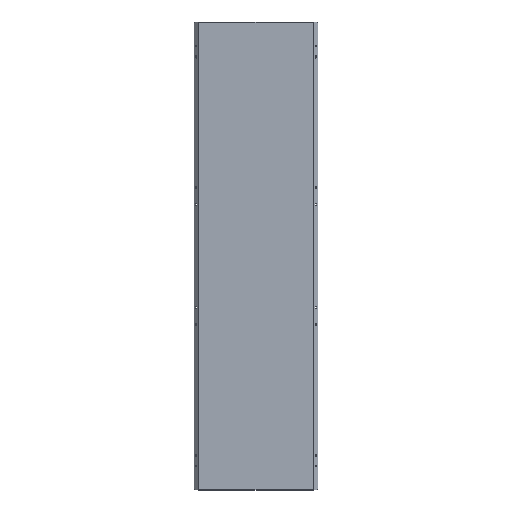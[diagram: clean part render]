
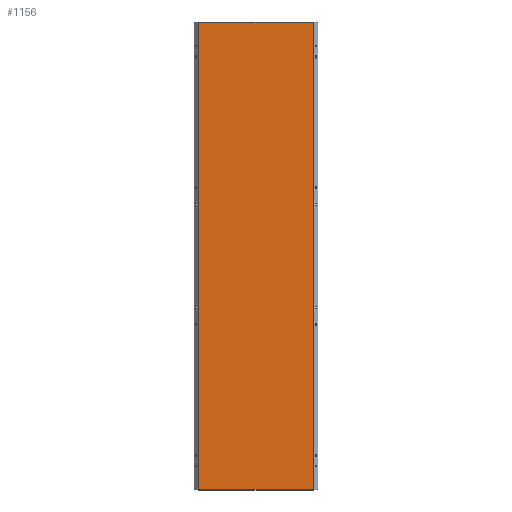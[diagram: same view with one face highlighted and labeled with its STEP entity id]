
A CAD part, top view. The second image highlights one B-rep face of the part: STEP entity #1156.
In plain terms, the highlighted planar face has unit normal (0, 0, 1).
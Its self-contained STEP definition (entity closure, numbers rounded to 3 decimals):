
#50 = ORIENTED_EDGE ( 'NONE', *, *, #115, .T. ) ;
#115 = EDGE_CURVE ( 'NONE', #6678, #2750, #4597, .T. ) ;
#333 = PLANE ( 'NONE',  #968 ) ;
#359 = LINE ( 'NONE', #3917, #5105 ) ;
#394 = CARTESIAN_POINT ( 'NONE',  ( -261.5, -1070.5, 0. ) ) ;
#642 = CARTESIAN_POINT ( 'NONE',  ( 261.5, 1070.5, 0. ) ) ;
#727 = CARTESIAN_POINT ( 'NONE',  ( 261.5, -1070.5, 0. ) ) ;
#968 = AXIS2_PLACEMENT_3D ( 'NONE', #7666, #2169, #1088 ) ;
#1088 = DIRECTION ( 'NONE',  ( -1., 0., 0. ) ) ;
#1107 = CARTESIAN_POINT ( 'NONE',  ( -261.5, -1070.5, 0. ) ) ;
#1156 = ADVANCED_FACE ( 'NONE', ( #5175 ), #333, .F. ) ;
#2010 = VERTEX_POINT ( 'NONE', #2988 ) ;
#2169 = DIRECTION ( 'NONE',  ( 0., 0., -1. ) ) ;
#2262 = CARTESIAN_POINT ( 'NONE',  ( 261.5, -1070.5, 0. ) ) ;
#2713 = ORIENTED_EDGE ( 'NONE', *, *, #3502, .T. ) ;
#2750 = VERTEX_POINT ( 'NONE', #727 ) ;
#2788 = DIRECTION ( 'NONE',  ( -1., 0., 0. ) ) ;
#2822 = DIRECTION ( 'NONE',  ( 0., -1., 0. ) ) ;
#2856 = DIRECTION ( 'NONE',  ( 1., 0., 0. ) ) ;
#2886 = VECTOR ( 'NONE', #2822, 1000. ) ;
#2988 = CARTESIAN_POINT ( 'NONE',  ( -261.5, 1070.5, 0. ) ) ;
#3052 = VERTEX_POINT ( 'NONE', #642 ) ;
#3057 = VECTOR ( 'NONE', #2856, 1000. ) ;
#3451 = EDGE_CURVE ( 'NONE', #2010, #6678, #4068, .T. ) ;
#3502 = EDGE_CURVE ( 'NONE', #2750, #3052, #7762, .T. ) ;
#3665 = ORIENTED_EDGE ( 'NONE', *, *, #6034, .T. ) ;
#3917 = CARTESIAN_POINT ( 'NONE',  ( -261.5, 1070.5, 0. ) ) ;
#4068 = LINE ( 'NONE', #394, #2886 ) ;
#4597 = LINE ( 'NONE', #1107, #3057 ) ;
#4710 = DIRECTION ( 'NONE',  ( 0., 1., 0. ) ) ;
#4809 = VECTOR ( 'NONE', #4710, 1000. ) ;
#5105 = VECTOR ( 'NONE', #2788, 1000. ) ;
#5175 = FACE_OUTER_BOUND ( 'NONE', #5668, .T. ) ;
#5668 = EDGE_LOOP ( 'NONE', ( #2713, #3665, #6458, #50 ) ) ;
#6034 = EDGE_CURVE ( 'NONE', #3052, #2010, #359, .T. ) ;
#6458 = ORIENTED_EDGE ( 'NONE', *, *, #3451, .T. ) ;
#6678 = VERTEX_POINT ( 'NONE', #7874 ) ;
#7666 = CARTESIAN_POINT ( 'NONE',  ( 0., 0., 0. ) ) ;
#7762 = LINE ( 'NONE', #2262, #4809 ) ;
#7874 = CARTESIAN_POINT ( 'NONE',  ( -261.5, -1070.5, 0. ) ) ;
